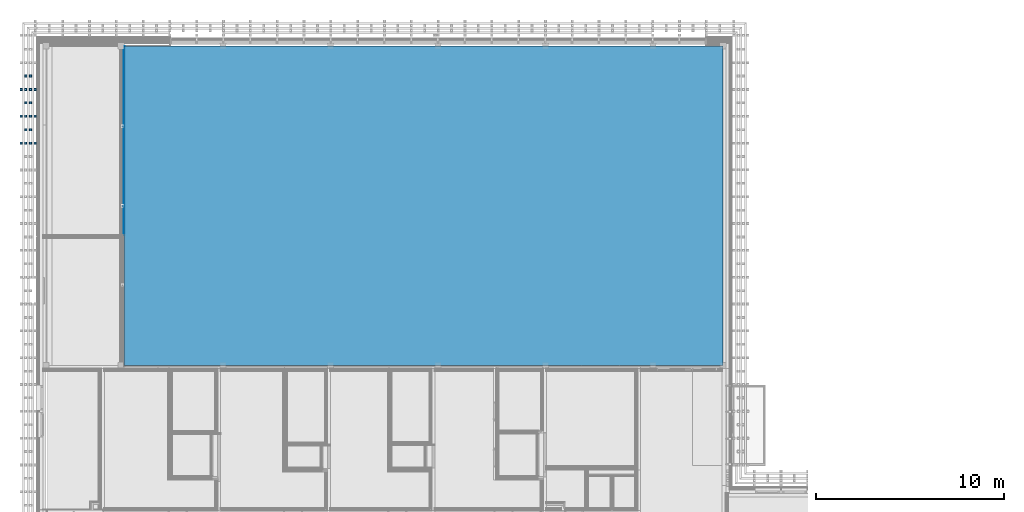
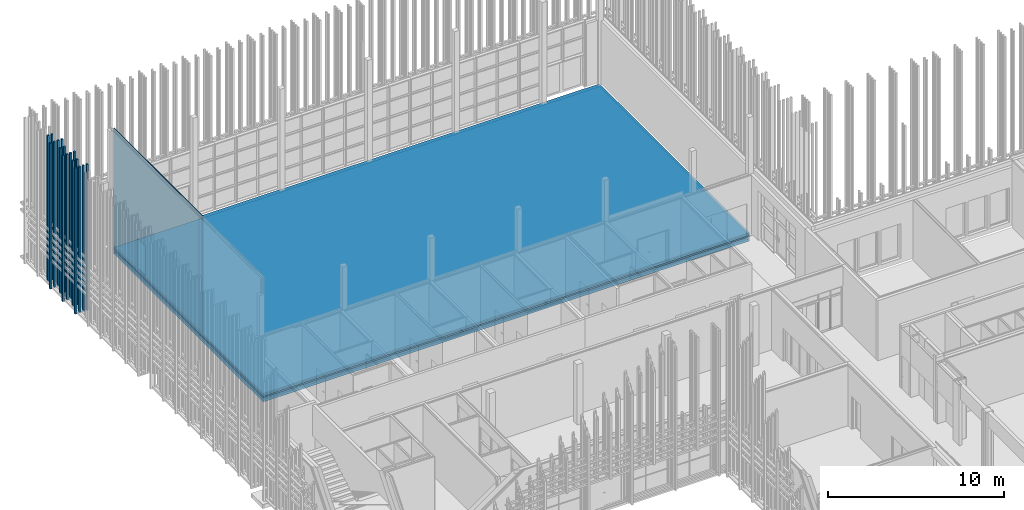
# One storey, part 229 of 260: 13 building element parts, 6 discrete accessories, 1 opening, 2 elements without a shape of their own.
"""IFC2X3 building model written with IfcOpenShell, lengths in millimetres."""

import ifcopenshell
import ifcopenshell.guid

model = None  # the IFC model being written
_history = None  # IfcOwnerHistory: only IFC2X3 demands one
_inside = {}  # id of a spatial element -> (the spatial element, [elements in it])
_under = {}  # id of a project, library or spatial element -> (it, [spatial elements below it])
_declared = {}  # id of a project -> (the project, [libraries it declares])
_typed = {}  # id of a type object -> (the type object, [elements of that type])
_made_of = {}  # id of a material, layer set ... -> (it, [elements and type objects made of it])


def new_model(schema):
    """Start an empty IFC model of exactly this schema.

    Asked for "IFC4X3", IfcOpenShell would pick the latest addendum, in which some entities
    have other attributes; the version numbers below select the first issue.
    IFC2X3 requires an IfcOwnerHistory on every rooted entity: one is made here for all.
    """
    global model, _history
    if schema == "IFC4X3":
        model = ifcopenshell.file(schema_version=(4, 3, 0, 0))
    else:
        model = ifcopenshell.file(schema=schema)
    _inside.clear()
    _under.clear()
    _declared.clear()
    _typed.clear()
    _made_of.clear()
    _history = None
    if model.schema == "IFC2X3":
        org = make("IfcOrganization", Name="unknown")
        user = make(
            "IfcPersonAndOrganization",
            ThePerson=make("IfcPerson", FamilyName="unknown"),
            TheOrganization=org,
        )
        app = make(
            "IfcApplication",
            ApplicationDeveloper=org,
            Version="unknown",
            ApplicationFullName="unknown",
            ApplicationIdentifier="unknown",
        )
        _history = make(
            "IfcOwnerHistory",
            OwningUser=user,
            OwningApplication=app,
            ChangeAction="ADDED",
            CreationDate=0,
        )
    return model


def make(cls, **values):
    """One entity of the class cls with the attributes given. An attribute that is None is left unset."""
    return model.create_entity(
        cls, **{name: value for name, value in values.items() if value is not None}
    )


def entity(cls, *values):
    """Any entity or typed value of the class cls, its attributes in the order of the schema. None: left unset."""
    e = model.create_entity(cls)
    for i, value in enumerate(values):
        if value is not None:
            e[i] = value
    return e


def rooted(cls, **values):
    """An entity with a GlobalId (a new one), such as an element, a storey or a relation."""
    return make(cls, GlobalId=ifcopenshell.guid.new(), OwnerHistory=_history, **values)


def si_unit(unit_type, name, prefix=None):
    """IfcSIUnit, for example si_unit("LENGTHUNIT", "METRE", prefix="MILLI")."""
    return make("IfcSIUnit", UnitType=unit_type, Prefix=prefix, Name=name)


def converted_unit(unit_type, name, factor, base, dimensions=None, offset=None):
    """IfcConversionBasedUnit, such as the inch: factor (a typed value) times the base unit."""
    return make(
        "IfcConversionBasedUnit"
        if offset is None
        else "IfcConversionBasedUnitWithOffset",
        ConversionOffset=offset,
        Dimensions=None
        if dimensions is None
        else entity("IfcDimensionalExponents", *dimensions),
        UnitType=unit_type,
        Name=name,
        ConversionFactor=make(
            "IfcMeasureWithUnit", ValueComponent=factor, UnitComponent=base
        ),
    )


def derived_unit(unit_type, elements):
    """IfcDerivedUnit: a product of units, each with its exponent."""
    return make(
        "IfcDerivedUnit",
        Elements=[
            make("IfcDerivedUnitElement", Unit=unit, Exponent=power)
            for unit, power in elements
        ],
        UnitType=unit_type,
    )


def money_unit(currency):
    """IfcMonetaryUnit."""
    return make("IfcMonetaryUnit", Currency=currency)


def assignment(units):
    """IfcUnitAssignment: the units of a project."""
    return None if units is None else make("IfcUnitAssignment", Units=units)


def point(xyz):
    """IfcCartesianPoint."""
    return None if xyz is None else make("IfcCartesianPoint", Coordinates=xyz)


def direction(xyz):
    """IfcDirection."""
    return None if xyz is None else make("IfcDirection", DirectionRatios=xyz)


def frame(location, z_axis=None, x_axis=None):
    """IfcAxis2Placement3D, a coordinate frame: its origin and axes. An axis left out is left unset."""
    return make(
        "IfcAxis2Placement3D",
        Location=point(location),
        Axis=direction(z_axis),
        RefDirection=direction(x_axis),
    )


def origin_with_axes():
    """The frame at (0, 0, 0) with the z axis (0, 0, 1) and the x axis (1, 0, 0) written out."""
    return frame((0.0, 0.0, 0.0), z_axis=(0.0, 0.0, 1.0), x_axis=(1.0, 0.0, 0.0))


def place(relative_to, where):
    """IfcLocalPlacement: puts the frame where relative to a parent placement (None: the world)."""
    return make(
        "IfcLocalPlacement", PlacementRelTo=relative_to, RelativePlacement=where
    )


def context(
    kind, dimensions, precision=None, world=None, true_north=None, identifier=None
):
    """IfcGeometricRepresentationContext, for example the 3D "Model" context."""
    return make(
        "IfcGeometricRepresentationContext",
        ContextIdentifier=identifier,
        ContextType=kind,
        CoordinateSpaceDimension=dimensions,
        Precision=precision,
        WorldCoordinateSystem=world,
        TrueNorth=true_north,
    )


def subcontext(parent, identifier, kind, view, scale=None):
    """IfcGeometricRepresentationSubContext, for example "Body" below "Model"."""
    return make(
        "IfcGeometricRepresentationSubContext",
        ContextIdentifier=identifier,
        ContextType=kind,
        ParentContext=parent,
        TargetScale=scale,
        TargetView=view,
    )


def project(units=None, contexts=None):
    """IfcProject with its units and contexts."""
    return rooted(
        "IfcProject",
        Name="project",
        RepresentationContexts=contexts,
        UnitsInContext=assignment(units),
    )


def spatial(cls, under=None, at=None, **own):
    """A site, building, storey or space (cls), placed at a placement, below another one or the project."""
    s = rooted(cls, ObjectPlacement=at, **own)
    if under is not None:
        _under.setdefault(under.id(), (under, []))[1].append(s)
    return s


def faces_of(points, faces, orient=None, outer=None):
    """IfcFace entities. A face is a list of loops; a loop is a list of indices into points, from 0.

    orient and outer hold one flag for each loop. By default every Orientation is true, the
    first loop of a face is its IfcFaceOuterBound and the others are IfcFaceBound.
    """
    made = []
    for i, loops in enumerate(faces):
        bounds = []
        for j, loop in enumerate(loops):
            is_outer = j == 0 if outer is None else outer[i][j]
            bounds.append(
                make(
                    "IfcFaceOuterBound" if is_outer else "IfcFaceBound",
                    Bound=make("IfcPolyLoop", Polygon=[points[k] for k in loop]),
                    Orientation=True if orient is None else orient[i][j],
                )
            )
        made.append(make("IfcFace", Bounds=bounds))
    return made


def faceted_brep(points, faces, orient=None, outer=None, voids=None):
    """IfcFacetedBrep: a solid bounded by flat faces; with voids (closed shells), ...WithVoids."""
    shared = [point(p) for p in points]
    hull = make("IfcClosedShell", CfsFaces=faces_of(shared, faces, orient, outer))
    if voids is None:
        return make("IfcFacetedBrep", Outer=hull)
    return make(
        "IfcFacetedBrepWithVoids",
        Outer=hull,
        Voids=[
            make(cls, CfsFaces=faces_of(shared, fs, o, b)) for cls, fs, o, b in voids
        ],
    )


def shape(context_of_items, identifier, shape_type, items):
    """IfcShapeRepresentation: the items that make up one representation, for example the "Body"."""
    return make(
        "IfcShapeRepresentation",
        ContextOfItems=context_of_items,
        RepresentationIdentifier=identifier,
        RepresentationType=shape_type,
        Items=items,
    )


def material(Name=None, Category=None):
    """IfcMaterial."""
    return make("IfcMaterial", Name=Name, Category=Category)


def material_list(materials):
    """IfcMaterialList."""
    return make("IfcMaterialList", Materials=materials)


def made_of(thing, what):
    """Note that an element or type object is made of a material, layer set ...; save() writes the relation."""
    if what is not None:
        _made_of.setdefault(what.id(), (what, []))[1].append(thing)
    return thing


def type_object(cls, material=None, **own):
    """A type object (cls), such as IfcWallType, which elements share."""
    return made_of(rooted(cls, **own), material)


def element(
    cls,
    number,
    at=None,
    inside=None,
    cuts=None,
    type_object=None,
    material=None,
    context=None,
    identifier="Body",
    shape_type=None,
    held_by="IfcProductDefinitionShape",
    body=None,
    shapes=None,
    **own,
):
    """One element of the class cls, such as IfcWall. Its Tag is "e" and its number.

    at: its placement. inside: the storey or other place that contains it. cuts: it is an
    opening in that element (IfcRelVoidsElement). A single representation is given by context,
    identifier, shape_type and body (its items); several are given by shapes. held_by: the class
    of the entity that holds the representations. save() writes the other relations.
    """
    e = rooted(cls, Tag="e%d" % number, ObjectPlacement=at, **own)
    if body is not None:
        shapes = [shape(context, identifier, shape_type, body)]
    if shapes is not None:
        e.Representation = make(held_by, Representations=shapes)
    if inside is not None:
        _inside.setdefault(inside.id(), (inside, []))[1].append(e)
    if cuts is not None:
        rooted(
            "IfcRelVoidsElement", RelatingBuildingElement=cuts, RelatedOpeningElement=e
        )
    if type_object is not None:
        _typed.setdefault(type_object.id(), (type_object, []))[1].append(e)
    return made_of(e, material)


def aggregate(whole, parts):
    """IfcRelAggregates: a whole, such as a stair, and the parts it consists of."""
    return rooted("IfcRelAggregates", RelatingObject=whole, RelatedObjects=parts)


def save(model, path):
    """Write the relations noted so far, then the file.

    IfcRelAggregates (storeys below a building ...), IfcRelContainedInSpatialStructure (elements
    in a storey), IfcRelDefinesByType, IfcRelAssociatesMaterial and IfcRelDeclares: one each for
    every whole, place, type object, material and project.
    """
    for whole, parts in _under.values():
        aggregate(whole, parts)
    for where, things in _inside.values():
        rooted(
            "IfcRelContainedInSpatialStructure",
            RelatedElements=things,
            RelatingStructure=where,
        )
    for kind, things in _typed.values():
        rooted("IfcRelDefinesByType", RelatedObjects=things, RelatingType=kind)
    for what, things in _made_of.values():
        rooted("IfcRelAssociatesMaterial", RelatedObjects=things, RelatingMaterial=what)
    for by, libraries in _declared.values():
        rooted("IfcRelDeclares", RelatingContext=by, RelatedDefinitions=libraries)
    model.write(path)


model = new_model("IFC2X3")

# Units and contexts
model_context = context("Model", 3, precision=0.01, world=origin_with_axes(), true_north=direction((0.0, 1.0)))
body_context = subcontext(model_context, "Body", "Model", "MODEL_VIEW")
ifc_project = project(units=[si_unit("LENGTHUNIT", "METRE", prefix="MILLI"), si_unit("AREAUNIT", "SQUARE_METRE"), si_unit("VOLUMEUNIT", "CUBIC_METRE"), converted_unit("PLANEANGLEUNIT", "DEGREE", entity("IfcPlaneAngleMeasure", 0.0174532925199), si_unit("PLANEANGLEUNIT", "RADIAN"), dimensions=[0, 0, 0, 0, 0, 0, 0]), money_unit("EUR"), converted_unit("TIMEUNIT", "Year", entity("IfcTimeMeasure", 31556926.0), si_unit("TIMEUNIT", "SECOND"), dimensions=[0, 0, 1, 0, 0, 0, 0]), si_unit("MASSUNIT", "GRAM", prefix="KILO"), si_unit("THERMODYNAMICTEMPERATUREUNIT", "DEGREE_CELSIUS"), si_unit("LUMINOUSINTENSITYUNIT", "LUMEN"), si_unit("ENERGYUNIT", "JOULE", prefix="MEGA"), derived_unit("THERMALCONDUCTANCEUNIT", [(si_unit("POWERUNIT", "WATT"), 1), (si_unit("LENGTHUNIT", "METRE"), -1), (si_unit("THERMODYNAMICTEMPERATUREUNIT", "KELVIN"), -1)]), derived_unit("SPECIFICHEATCAPACITYUNIT", [(si_unit("ENERGYUNIT", "JOULE"), 1), (si_unit("MASSUNIT", "GRAM", prefix="KILO"), -1), (si_unit("THERMODYNAMICTEMPERATUREUNIT", "KELVIN"), -1)]), derived_unit("MASSDENSITYUNIT", [(si_unit("MASSUNIT", "GRAM", prefix="KILO"), 1), (si_unit("VOLUMEUNIT", "CUBIC_METRE"), -1)])], contexts=[model_context])

# Site, building, storey
site_placement = place(None, origin_with_axes())
site = spatial("IfcSite", under=ifc_project, at=site_placement, Name="Kolde pst 67a", CompositionType="ELEMENT")
building_placement = place(site_placement, origin_with_axes())
building = spatial("IfcBuilding", under=site, at=building_placement, Name="Riigigümnaasium", CompositionType="ELEMENT")
storey_placement = place(building_placement, origin_with_axes())
storey = spatial("IfcBuildingStorey", under=building, at=storey_placement, Name="1. korrus", CompositionType="ELEMENT", Elevation=0.0)

# Discrete accessories
ifc_material_1 = material(Name="_VÄLISVIIMISTLUS - sõrmjätkatud puitprussid 120x115mm, liitekohad vähemärgatavad, Platowood sõrmjätkatud kuusk või samaväärne; eeltöödeldud tuletõkkevõõbaga, tuletundlikkus B-s1, d0, Woodsafe Exterior WFX™ või samaväärne; kinnitused vastavalt EK osale")
ifc_material_list_1 = material_list([ifc_material_1, ifc_material_1, ifc_material_1, ifc_material_1])
discrete_accessory_type_1 = type_object("IfcDiscreteAccessoryType", Name="120 4-ne vertikaalne 870 x 115")
for number, where, z_axis, x_axis in (
    (1, (-310.003213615, 81982.2222769, 280.0), (0.0, 0.0, 1.0), (0.999999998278, -5.86859191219e-05, 0.0)),
    (2, (-310.003213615, 80552.2222769, 280.0), (0.0, 0.0, 1.0), (0.999999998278, -5.86859191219e-05, 0.0)),
    (3, (-310.003213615, 79122.222277, 280.0), (0.0, 0.0, 1.0), (0.999999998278, -5.86859191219e-05, 0.0)),
):
    element("IfcDiscreteAccessory", number, at=place(storey_placement, frame(where, z_axis=z_axis, x_axis=x_axis)), inside=storey, type_object=discrete_accessory_type_1, material=ifc_material_list_1, Name="Päikesevarjestus", context=body_context, shape_type="Brep", body=[
        faceted_brep([(-133.0, -70.0, 0.0), (-13.0, -70.0, 0.0), (-13.0, -70.0, 10140.0), (-133.0, -70.0, 10140.0), (-133.0, 45.0, 0.0), (-13.0, 45.0, 0.0), (-13.0, 45.0, 10140.0), (-133.0, 45.0, 10140.0)], [[[0, 1, 2, 3]], [[0, 4, 5, 1]], [[1, 5, 6, 2]], [[3, 2, 6, 7]], [[4, 0, 3, 7]], [[5, 4, 7, 6]]]),
        faceted_brep([(-383.0, -70.0, 0.0), (-263.0, -70.0, 0.0), (-263.0, -70.0, 10140.0), (-383.0, -70.0, 10140.0), (-383.0, 45.0, 0.0), (-263.0, 45.0, 0.0), (-263.0, 45.0, 10140.0), (-383.0, 45.0, 10140.0)], [[[0, 1, 2, 3]], [[0, 4, 5, 1]], [[1, 5, 6, 2]], [[3, 2, 6, 7]], [[4, 0, 3, 7]], [[5, 4, 7, 6]]]),
        faceted_brep([(-633.0, -70.0, 0.0), (-513.0, -70.0, 0.0), (-513.0, -70.0, 10140.0), (-633.0, -70.0, 10140.0), (-633.0, 45.0, 0.0), (-513.0, 45.0, 0.0), (-513.0, 45.0, 10140.0), (-633.0, 45.0, 10140.0)], [[[0, 1, 2, 3]], [[0, 4, 5, 1]], [[1, 5, 6, 2]], [[3, 2, 6, 7]], [[4, 0, 3, 7]], [[5, 4, 7, 6]]]),
        faceted_brep([(-883.0, -70.0, 0.0), (-763.0, -70.0, 0.0), (-763.0, -70.0, 10140.0), (-883.0, -70.0, 10140.0), (-883.0, 45.0, 0.0), (-763.0, 45.0, 0.0), (-763.0, 45.0, 10140.0), (-883.0, 45.0, 10140.0)], [[[0, 1, 2, 3]], [[0, 4, 5, 1]], [[1, 5, 6, 2]], [[3, 2, 6, 7]], [[4, 0, 3, 7]], [[5, 4, 7, 6]]]),
    ])
ifc_material_list_2 = material_list([ifc_material_1, ifc_material_1])
discrete_accessory_type_2 = type_object("IfcDiscreteAccessoryType", Name="1+paiksekaitse 3 370 x 115")
for number, where, z_axis, x_axis in (
    (4, (-1290.00042497, 82624.758805, 280.0), (0.0, 0.0, 1.0), (1.0, 0.0, 0.0)),
    (5, (-1290.00042497, 79764.758805, 280.0), (0.0, 0.0, 1.0), (1.0, 0.0, 0.0)),
    (6, (-1290.00042497, 81194.758805, 280.0), (0.0, 0.0, 1.0), (1.0, 0.0, 0.0)),
):
    element("IfcDiscreteAccessory", number, at=place(storey_placement, frame(where, z_axis=z_axis, x_axis=x_axis)), inside=storey, type_object=discrete_accessory_type_2, material=ifc_material_list_2, Name="Päikesevarjestus", context=body_context, shape_type="Brep", body=[
        faceted_brep([(467.0, 117.5, 0.0), (347.0, 117.5, 0.0), (347.0, 117.5, 10140.0), (467.0, 117.5, 10140.0), (467.0, 2.5, 0.0), (347.0, 2.5, 0.0), (347.0, 2.5, 10140.0), (467.0, 2.5, 10140.0)], [[[0, 1, 2, 3]], [[0, 4, 5, 1]], [[1, 5, 6, 2]], [[3, 2, 6, 7]], [[4, 0, 3, 7]], [[5, 4, 7, 6]]]),
        faceted_brep([(717.0, 117.5, 0.0), (597.0, 117.5, 0.0), (597.0, 117.5, 10140.0), (717.0, 117.5, 10140.0), (717.0, 2.5, 0.0), (597.0, 2.50000000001, 0.0), (597.0, 2.50000000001, 10140.0), (717.0, 2.5, 10140.0)], [[[0, 1, 2, 3]], [[0, 4, 5, 1]], [[1, 5, 6, 2]], [[3, 2, 6, 7]], [[4, 0, 3, 7]], [[5, 4, 7, 6]]]),
    ])

# Slab, building element parts
slab_type = type_object("IfcSlabType", Name="PP-RBM-10/2_EPS 200+spordipõrand 589", PredefinedType="NOTDEFINED")
slab_placement = place(storey_placement, frame((4339.99949991, 67249.9965072, 0.0), z_axis=(0.0, 0.0, 1.0), x_axis=(1.0, 0.0, 0.0)))
slab = element("IfcSlab", 7, at=slab_placement, inside=storey, type_object=slab_type, Name="Põrand pinnasel", PredefinedType="NOTDEFINED")
ifc_material_2 = material(Name="_VIIMISTLUSKIHT - viimistlus vastavalt SA osale")
building_element_part_1_placement = place(slab_placement, origin_with_axes())
building_element_part_1 = element("IfcBuildingElementPart", 8, at=building_element_part_1_placement, material=ifc_material_2, Name="_VIIMISTLUSKIHT - viimistlus vastavalt SA osale", context=body_context, shape_type="Brep", body=[
    faceted_brep([(31939.9997003, -0.00478448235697, -89.0), (31939.9997003, -0.00478448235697, 0.0), (0.0, 0.0, 0.0), (0.0, 0.0, -89.0), (31940.0028789, 17050.0034234, -89.0), (31940.0028789, 17050.0034234, 0.0), (0.0, 17050.0034234, 0.0), (0.0, 17050.0034234, -89.0)], [[[0, 1, 2, 3]], [[4, 5, 1, 0]], [[2, 1, 5, 6]], [[3, 2, 6, 7]], [[3, 7, 4, 0]], [[7, 6, 5, 4]]]),
])
ifc_material_3 = material(Name="_PEALEVALUKIHT - raudbetoonplaat vastavalt EK osale, vajadusel põrandküte")
building_element_part_2_placement = place(slab_placement, origin_with_axes())
building_element_part_2 = element("IfcBuildingElementPart", 9, at=building_element_part_2_placement, material=ifc_material_3, Name="_PEALEVALUKIHT - raudbetoonplaat vastavalt EK osale, vajadusel põrandküte", context=body_context, shape_type="Brep", body=[
    faceted_brep([(31939.9997003, -0.00478448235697, -189.0), (31939.9997003, -0.00478448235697, -89.0), (0.0, 0.0, -89.0), (0.0, 0.0, -189.0), (31940.0028789, 17050.0034234, -189.0), (31940.0028789, 17050.0034234, -89.0), (0.0, 17050.0034234, -89.0), (0.0, 17050.0034234, -189.0)], [[[0, 1, 2, 3]], [[4, 5, 1, 0]], [[2, 1, 5, 6]], [[3, 2, 6, 7]], [[3, 7, 4, 0]], [[7, 6, 5, 4]]]),
])
ifc_material_4 = material(Name="_ERALDUSKIHT - polüetüleenkile 0,2mm, vuugid ülekattega 200mm ja teibitud")
building_element_part_3_placement = place(slab_placement, origin_with_axes())
building_element_part_3 = element("IfcBuildingElementPart", 10, at=building_element_part_3_placement, material=ifc_material_4, Name="_ERALDUSKIHT - polüetüleenkile 0,2mm, vuugid ülekattega 200mm ja teibitud", context=body_context, shape_type="Brep", body=[
    faceted_brep([(31939.9997003, -0.00478448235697, -189.1), (31939.9997003, -0.00478448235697, -189.0), (0.0, 0.0, -189.0), (0.0, 0.0, -189.1), (31940.0028789, 17050.0034234, -189.1), (31940.0028789, 17050.0034234, -189.0), (0.0, 17050.0034234, -189.0), (0.0, 17050.0034234, -189.1)], [[[0, 1, 2, 3]], [[4, 5, 1, 0]], [[2, 1, 5, 6]], [[3, 2, 6, 7]], [[3, 7, 4, 0]], [[7, 6, 5, 4]]]),
])
ifc_material_5 = material(Name="_SOOJUSTUS - vahtpolüstüreenplaadid EPS 120 Perimeeter, survetugevus min 120kPa, veeimavus <2%, soojuserijuhtivus λD<0,036 W/(mK)")
building_element_part_4_placement = place(slab_placement, origin_with_axes())
building_element_part_4 = element("IfcBuildingElementPart", 11, at=building_element_part_4_placement, material=ifc_material_5, Name="_SOOJUSTUS - vahtpolüstüreenplaadid EPS 120 Perimeeter, survetugevus min 120kPa, veeimavus <2%, soojuserijuhtivus λD<0,036 W/(mK)", context=body_context, shape_type="Brep", body=[
    faceted_brep([(31939.9997003, -0.00478448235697, -289.1), (31939.9997003, -0.00478448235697, -189.1), (0.0, 0.0, -189.1), (0.0, 0.0, -289.1), (31940.0028789, 17050.0034234, -289.1), (31940.0028789, 17050.0034234, -189.1), (0.0, 17050.0034234, -189.1), (0.0, 17050.0034234, -289.1)], [[[0, 1, 2, 3]], [[4, 5, 1, 0]], [[2, 1, 5, 6]], [[3, 2, 6, 7]], [[3, 7, 4, 0]], [[7, 6, 5, 4]]]),
])
ifc_material_6 = material(Name="_ERALDUSKIHT - radoonitõkkekile/-membraan LEKU 280g/m² või samaväärne")
building_element_part_5_placement = place(slab_placement, origin_with_axes())
building_element_part_5 = element("IfcBuildingElementPart", 12, at=building_element_part_5_placement, material=ifc_material_6, Name="_ERALDUSKIHT - radoonitõkkekile/-membraan LEKU 280g/m² või samaväärne", context=body_context, shape_type="Brep", body=[
    faceted_brep([(31939.9997003, -0.00478448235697, -289.2), (31939.9997003, -0.00478448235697, -289.1), (0.0, 0.0, -289.1), (0.0, 0.0, -289.2), (31940.0028789, 17050.0034234, -289.2), (31940.0028789, 17050.0034234, -289.1), (0.0, 17050.0034234, -289.1), (0.0, 17050.0034234, -289.2)], [[[0, 1, 2, 3]], [[4, 5, 1, 0]], [[2, 1, 5, 6]], [[3, 2, 6, 7]], [[3, 7, 4, 0]], [[7, 6, 5, 4]]]),
])
building_element_part_6_placement = place(slab_placement, origin_with_axes())
building_element_part_6 = element("IfcBuildingElementPart", 13, at=building_element_part_6_placement, material=ifc_material_5, Name="_SOOJUSTUS - vahtpolüstüreenplaadid EPS 120 Perimeeter, survetugevus min 120kPa, veeimavus <2%, soojuserijuhtivus λD<0,036 W/(mK)", context=body_context, shape_type="Brep", body=[
    faceted_brep([(31939.9997003, -0.00478448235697, -389.2), (31939.9997003, -0.00478448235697, -289.2), (0.0, 0.0, -289.2), (0.0, 0.0, -389.2), (31940.0028789, 17050.0034234, -389.2), (31940.0028789, 17050.0034234, -289.2), (0.0, 17050.0034234, -289.2), (0.0, 17050.0034234, -389.2)], [[[0, 1, 2, 3]], [[4, 5, 1, 0]], [[2, 1, 5, 6]], [[3, 2, 6, 7]], [[3, 7, 4, 0]], [[7, 6, 5, 4]]]),
])
ifc_material_7 = material(Name="_TÄIDE - tasandus-/tugevduskiht, pinnasesse tambitud killustik E=80MPa, kiilutud fr 4/16")
building_element_part_7_placement = place(slab_placement, origin_with_axes())
building_element_part_7 = element("IfcBuildingElementPart", 14, at=building_element_part_7_placement, material=ifc_material_7, Name="_TÄIDE - tasandus-/tugevduskiht, pinnasesse tambitud killustik E=80MPa, kiilutud fr 4/16", context=body_context, shape_type="Brep", body=[
    faceted_brep([(31939.9997003, -0.00478448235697, -439.2), (31939.9997003, -0.00478448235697, -389.2), (0.0, 0.0, -389.2), (0.0, 0.0, -439.2), (31940.0028789, 17050.0034234, -439.2), (31940.0028789, 17050.0034234, -389.2), (0.0, 17050.0034234, -389.2), (0.0, 17050.0034234, -439.2)], [[[0, 1, 2, 3]], [[4, 5, 1, 0]], [[2, 1, 5, 6]], [[3, 2, 6, 7]], [[3, 7, 4, 0]], [[7, 6, 5, 4]]]),
])
ifc_material_8 = material(Name="_TÄIDE - tasandus-/tugevduskiht, pinnasesse tambitud killustik E=80MPa, fr 16/32")
building_element_part_8_placement = place(slab_placement, origin_with_axes())
building_element_part_8 = element("IfcBuildingElementPart", 15, at=building_element_part_8_placement, material=ifc_material_8, Name="_TÄIDE - tasandus-/tugevduskiht, pinnasesse tambitud killustik E=80MPa, fr 16/32", context=body_context, shape_type="Brep", body=[
    faceted_brep([(31939.9997003, -0.00478448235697, -589.2), (31939.9997003, -0.00478448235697, -439.2), (0.0, 0.0, -439.2), (0.0, 0.0, -589.2), (31940.0028789, 17050.0034234, -589.2), (31940.0028789, 17050.0034234, -439.2), (0.0, 17050.0034234, -439.2), (0.0, 17050.0034234, -589.2)], [[[0, 1, 2, 3]], [[4, 5, 1, 0]], [[2, 1, 5, 6]], [[3, 2, 6, 7]], [[3, 7, 4, 0]], [[7, 6, 5, 4]]]),
])
ifc_material_9 = material(Name="_PINNAS - tihendatud mineraalne tagasitäide või olemasolev pinnas, tihendusaste 92%, Emax/E1 <2.8 (vastavalt MaaRYL2010 klassile 2)")
building_element_part_9_placement = place(slab_placement, origin_with_axes())
building_element_part_9 = element("IfcBuildingElementPart", 16, at=building_element_part_9_placement, material=ifc_material_9, Name="_PINNAS - tihendatud mineraalne tagasitäide või olemasolev pinnas, tihendusaste 92%, Emax/E1 <2.8 (vastavalt MaaRYL2010 klassile 2)", context=body_context, shape_type="Brep", body=[
    faceted_brep([(0.0, 0.0, -589.3), (31939.9997003, -0.00478448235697, -589.3), (31939.9997003, -0.00478448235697, -589.2), (0.0, 0.0, -589.2), (0.0, 17050.0034234, -589.3), (31940.0028789, 17050.0034234, -589.3), (31940.0028789, 17050.0034234, -589.2), (0.0, 17050.0034234, -589.2)], [[[0, 1, 2, 3]], [[0, 4, 5, 1]], [[1, 5, 6, 2]], [[3, 2, 6, 7]], [[4, 0, 3, 7]], [[5, 4, 7, 6]]]),
])
aggregate(slab, [building_element_part_1, building_element_part_2, building_element_part_3, building_element_part_4, building_element_part_5, building_element_part_6, building_element_part_7, building_element_part_8, building_element_part_9])

# Wall, opening, building element parts
wall_type = type_object("IfcWallType", Name="SS-MK-6,6/1_vill75+dold+värv tehno-võimla 60dB 257", PredefinedType="NOTDEFINED")
wall_placement = place(storey_placement, frame((4145.00006412, 84279.9999608, -150.0), z_axis=(0.0, 0.0, 1.0), x_axis=(0.0, -1.0, 0.0)))
wall = element("IfcWall", 17, at=wall_placement, inside=storey, type_object=wall_type, Name="Sisesein")
opening_placement = place(wall_placement, frame((3159.99994218, 0.0, 150.0), z_axis=(0.0, 0.0, 1.0), x_axis=(1.0, 0.0, 0.0)))
element("IfcOpeningElement", 18, at=opening_placement, cuts=wall, Name="Siseuks", context=body_context, shape_type="Brep", body=[
    faceted_brep([(-500.0, 514.0, 2100.0), (-500.0, 514.0, 0.0), (-500.0, -257.0, 0.0), (-500.0, -257.0, 2100.0), (500.0, 514.0, 2100.0), (500.0, 514.0, 0.0), (500.0, -257.0, 0.0), (500.0, -257.0, 2100.0)], [[[0, 1, 2, 3]], [[0, 4, 5, 1]], [[1, 5, 6, 2]], [[3, 2, 6, 7]], [[4, 0, 3, 7]], [[5, 4, 7, 6]]]),
])
ifc_material_10 = material(Name="_VIIMISTLUSKIHT - Dold plaat vastavalt SA osale")
building_element_part_10_placement = place(wall_placement, origin_with_axes())
building_element_part_10 = element("IfcBuildingElementPart", 19, at=building_element_part_10_placement, material=ifc_material_10, Name="_VIIMISTLUSKIHT - Dold plaat vastavalt SA osale", context=body_context, shape_type="Brep", body=[
    faceted_brep([(10095.0093099, 237.0, 8270.0), (0.0, 237.0, 8270.0), (0.0, 237.0, 0.0), (10095.0093099, 237.0, 0.0), (3659.99994218, 237.0, 150.0), (2659.99994218, 237.0, 150.0), (2659.99994218, 237.0, 2250.0), (3659.99994218, 237.0, 2250.0), (10095.0093099, 257.0, 8270.0), (0.0, 257.0, 8270.0), (0.0, 257.0, 0.0), (10095.0093099, 257.0, 0.0), (3659.99994218, 257.0, 150.0), (2659.99994218, 257.0, 150.0), (2659.99994218, 257.0, 2250.0), (3659.99994218, 257.0, 2250.0)], [[[0, 1, 2, 3], [4, 5, 6, 7]], [[8, 9, 1, 0]], [[2, 1, 9, 10]], [[3, 2, 10, 11]], [[8, 0, 3, 11]], [[12, 13, 5, 4]], [[13, 14, 6, 5]], [[14, 15, 7, 6]], [[15, 12, 4, 7]], [[11, 10, 9, 8], [12, 15, 14, 13]]]),
])
ifc_material_11 = material(Name="_KARKASS - eriprofiilkinnitus vastavalt sisemisele plaatviimistlusele")
building_element_part_11_placement = place(wall_placement, origin_with_axes())
building_element_part_11 = element("IfcBuildingElementPart", 20, at=building_element_part_11_placement, material=ifc_material_11, Name="_KARKASS - eriprofiilkinnitus vastavalt sisemisele plaatviimistlusele", context=body_context, shape_type="Brep", body=[
    faceted_brep([(10095.0093099, 227.0, 8270.0), (0.0, 227.0, 8270.0), (0.0, 227.0, 0.0), (10095.0093099, 227.0, 0.0), (3659.99994218, 227.0, 150.0), (2659.99994218, 227.0, 150.0), (2659.99994218, 227.0, 2250.0), (3659.99994218, 227.0, 2250.0), (10095.0093099, 237.0, 8270.0), (0.0, 237.0, 8270.0), (0.0, 237.0, 0.0), (10095.0093099, 237.0, 0.0), (3659.99994218, 237.0, 150.0), (2659.99994218, 237.0, 150.0), (2659.99994218, 237.0, 2250.0), (3659.99994218, 237.0, 2250.0)], [[[0, 1, 2, 3], [4, 5, 6, 7]], [[8, 9, 1, 0]], [[2, 1, 9, 10]], [[3, 2, 10, 11]], [[8, 0, 3, 11]], [[12, 13, 5, 4]], [[13, 14, 6, 5]], [[14, 15, 7, 6]], [[15, 12, 4, 7]], [[11, 10, 9, 8], [12, 15, 14, 13]]]),
])
ifc_material_12 = material(Name="_PLAATMATERJAL - tuletõkkekipsplaat, Knauf Red GKF või samaväärne")
building_element_part_12_placement = place(wall_placement, origin_with_axes())
building_element_part_12 = element("IfcBuildingElementPart", 21, at=building_element_part_12_placement, material=ifc_material_12, Name="_PLAATMATERJAL - tuletõkkekipsplaat, Knauf Red GKF või samaväärne", context=body_context, shape_type="Brep", body=[
    faceted_brep([(10095.0093099, 212.0, 8270.0), (0.0, 212.0, 8270.0), (0.0, 212.0, 0.0), (10095.0093099, 212.0, 0.0), (3659.99994218, 212.0, 150.0), (2659.99994218, 212.0, 150.0), (2659.99994218, 212.0, 2250.0), (3659.99994218, 212.0, 2250.0), (10095.0093099, 227.0, 8270.0), (0.0, 227.0, 8270.0), (0.0, 227.0, 0.0), (10095.0093099, 227.0, 0.0), (3659.99994218, 227.0, 150.0), (2659.99994218, 227.0, 150.0), (2659.99994218, 227.0, 2250.0), (3659.99994218, 227.0, 2250.0)], [[[0, 1, 2, 3], [4, 5, 6, 7]], [[8, 9, 1, 0]], [[2, 1, 9, 10]], [[3, 2, 10, 11]], [[8, 0, 3, 11]], [[12, 13, 5, 4]], [[13, 14, 6, 5]], [[14, 15, 7, 6]], [[15, 12, 4, 7]], [[11, 10, 9, 8], [12, 15, 14, 13]]]),
])
building_element_part_13_placement = place(wall_placement, origin_with_axes())
building_element_part_13 = element("IfcBuildingElementPart", 22, at=building_element_part_13_placement, material=ifc_material_12, Name="_PLAATMATERJAL - tuletõkkekipsplaat, Knauf Red GKF või samaväärne", context=body_context, shape_type="Brep", body=[
    faceted_brep([(10095.0093099, 197.0, 8270.0), (0.0, 197.0, 8270.0), (0.0, 197.0, 0.0), (10095.0093099, 197.0, 0.0), (3659.99994218, 197.0, 150.0), (2659.99994218, 197.0, 150.0), (2659.99994218, 197.0, 2250.0), (3659.99994218, 197.0, 2250.0), (10095.0093099, 212.0, 8270.0), (0.0, 212.0, 8270.0), (0.0, 212.0, 0.0), (10095.0093099, 212.0, 0.0), (3659.99994218, 212.0, 150.0), (2659.99994218, 212.0, 150.0), (2659.99994218, 212.0, 2250.0), (3659.99994218, 212.0, 2250.0)], [[[0, 1, 2, 3], [4, 5, 6, 7]], [[8, 9, 1, 0]], [[2, 1, 9, 10]], [[3, 2, 10, 11]], [[8, 0, 3, 11]], [[12, 13, 5, 4]], [[13, 14, 6, 5]], [[14, 15, 7, 6]], [[15, 12, 4, 7]], [[11, 10, 9, 8], [12, 15, 14, 13]]]),
])
aggregate(wall, [building_element_part_10, building_element_part_11, building_element_part_12, building_element_part_13])

save(model, "model.ifc")
